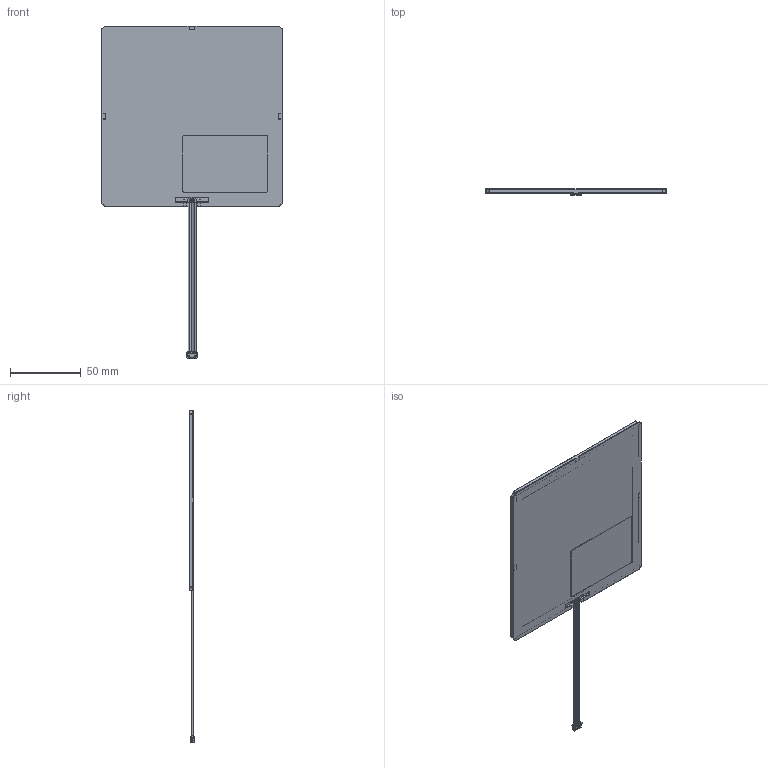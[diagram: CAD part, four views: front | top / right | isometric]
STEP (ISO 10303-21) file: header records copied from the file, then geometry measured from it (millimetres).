
FILE_DESCRIPTION (( 'STEP AP203' ), '1' );
FILE_NAME ('Brite-FL300-ww-B1-PCAL.STEP', '2014-08-26T01:53:44', ( 'Philips' ), ( 'Philips' ), 'SwSTEP 2.0', 'SolidWorks 2013', '' );
FILE_SCHEMA (( 'CONFIG_CONTROL_DESIGN' ));
Length unit declared in the file: millimetre
Products named in the file (20): Cable; Metal-Sheet; Frame-20131213_erik; Ligaro; Heat-pad; Resistor-0402; Mounting-DSA_DSA-L; Mounting-DSA_DSA-S; Eagle-OLED; Outcoupling-Foil; Back-Cover-20131213_0731; Substrate; FL300-Product-Label-Level-4-ww_FL300-Product-Label-Level-4-ww; 510210500; TFE; Brite-FL300-ww-B1-PCAL; 500798000; Metal-Sheet-Adhesive
Assembly tree (30 placements, depth 4):
  Brite-FL300-ww-B1-PCAL
    Eagle-OLED
      Outcoupling-Foil
      Substrate
      TFE
      Metal-Sheet-Adhesive
      Metal-Sheet
      Ligaro
        Ligaro
        Resistor-0402  x2
    Cable
      Cable
      510210500
      500798000  x5
    Frame-20131213_erik
    Heat-pad
    Mounting-DSA_DSA-L  x6
    Mounting-DSA_DSA-S  x2
    Back-Cover-20131213_0731
    FL300-Product-Label-Level-4-ww_FL300-Product-Label-Level-4-ww
Bounding box: 127 x 3.88 x 233.9 mm (x, y, z)
Volume: 36532.5 mm3; surface area: 217399 mm2
Topology: 27 solids, 27 shells, 1298 faces, 3602 edges, 2330 vertices
Faces by surface type: plane 887, cylinder 200, bspline 199, sphere 8, torus 4
Entity records: 27122 total; most frequent: CARTESIAN_POINT 6716, ORIENTED_EDGE 3916, DIRECTION 3441, EDGE_CURVE 1958, LINE 1631, VECTOR 1631, VERTEX_POINT 1266, AXIS2_PLACEMENT_3D 905
